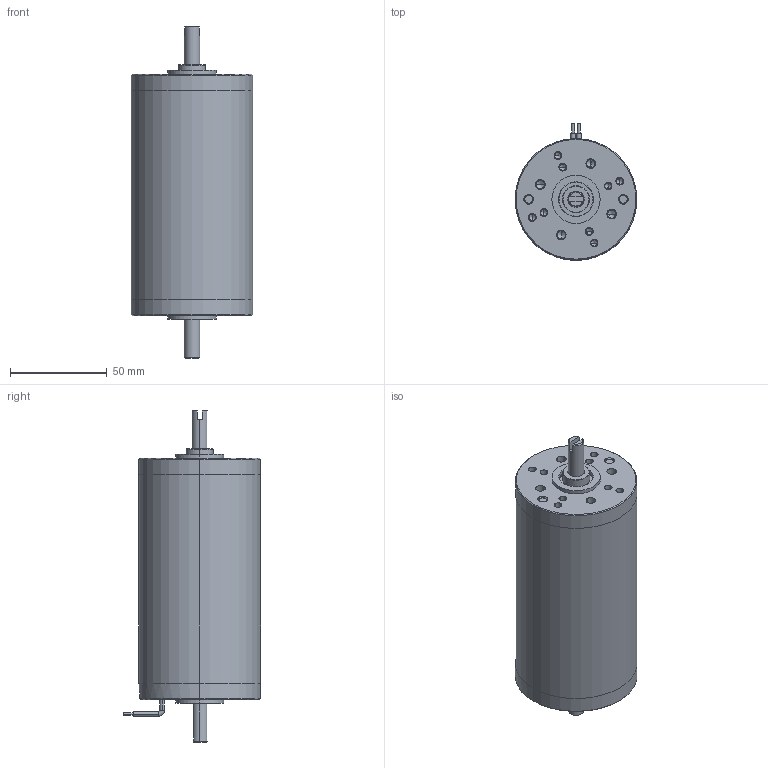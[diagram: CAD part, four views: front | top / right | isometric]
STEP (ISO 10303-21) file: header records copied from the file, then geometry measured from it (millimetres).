
FILE_DESCRIPTION (( 'STEP AP214' ), '1' );
FILE_NAME ('BRx63-55 Motor Assy.STEP', '2024-01-09T11:54:03', ( '' ), ( '' ), 'SwSTEP 2.0', 'SolidWorks 2023', '' );
FILE_SCHEMA (( 'AUTOMOTIVE_DESIGN' ));
Length unit declared in the file: millimetre
Products named in the file (1): BRx63-55 Motor Assy
Bounding box: 63 x 71 x 172 mm (x, y, z)
Volume: 139249.8 mm3; surface area: 78460.8 mm2
Topology: 16 solids, 16 shells, 560 faces, 1261 edges, 762 vertices
Faces by surface type: cylinder 263, plane 110, torus 96, cone 91
Entity records: 21892 total; most frequent: DIRECTION 3116, CARTESIAN_POINT 2566, ORIENTED_EDGE 2426, AXIS2_PLACEMENT_3D 1352, EDGE_CURVE 1213, CIRCLE 791, VERTEX_POINT 762, EDGE_LOOP 665
